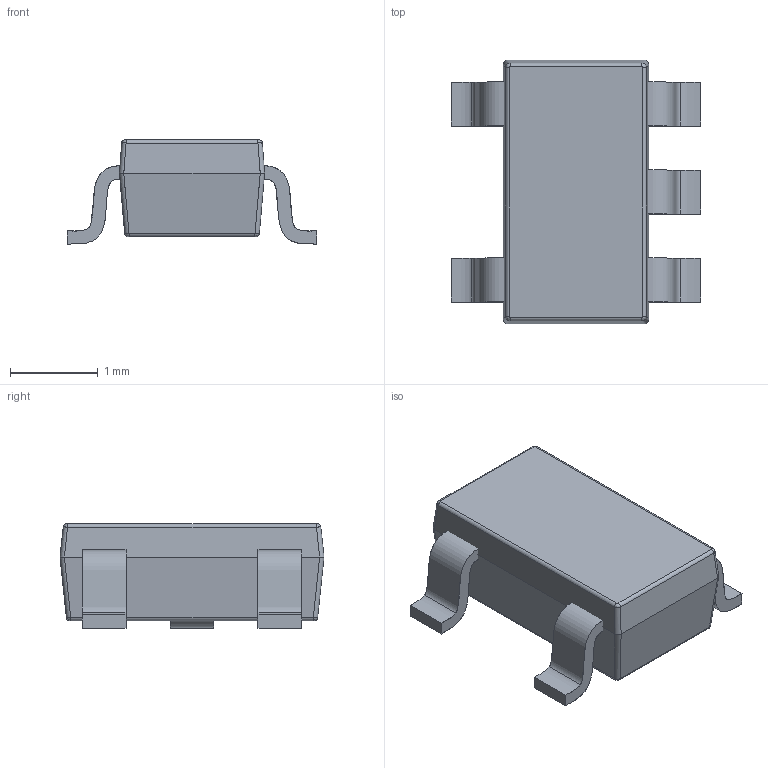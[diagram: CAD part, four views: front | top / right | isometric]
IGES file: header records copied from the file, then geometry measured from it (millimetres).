
Global section: file name: C:\Users\Mart\Documents\Libraries\3D Componenten\sot\SOT23-5.igs; native system: Rhinoceros ( Oct 24 2012 ); preprocessor: Trout Lake IGES 012 Oct 24 2012; author: MB2015; date: 151020.184043; units: millimetre
Bounding box: 2.84 x 3 x 1.18 mm (x, y, z)
Surface area: 27.1 mm2 (no closed solid volume)
Topology: 0 solids, 0 shells, 69 faces, 552 edges, 552 vertices
Faces by surface type: bspline 69
